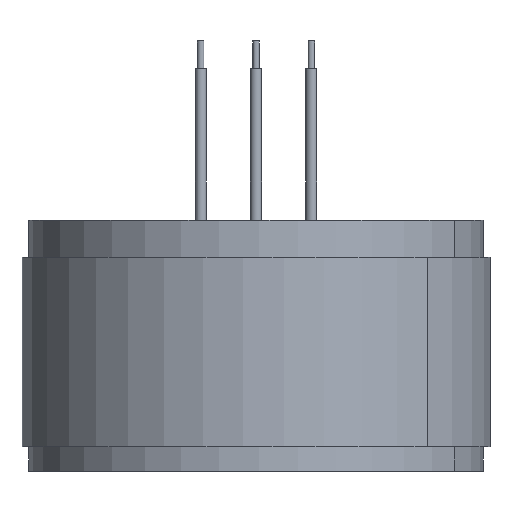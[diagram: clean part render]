
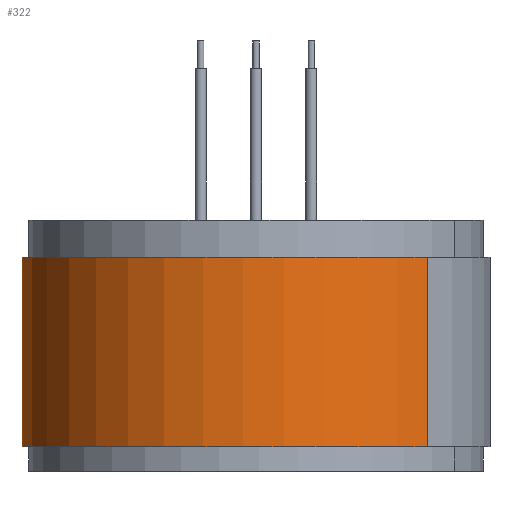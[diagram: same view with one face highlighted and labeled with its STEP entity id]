
A CAD part, front view. The second image highlights one B-rep face of the part: STEP entity #322.
In plain terms, the highlighted cylindrical face has radius 34 mm (diameter 68 mm), a partial arc.
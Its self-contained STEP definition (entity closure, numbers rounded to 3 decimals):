
#62 = CARTESIAN_POINT ( 'NONE',  ( -24.834, 23.223, 27.5 ) ) ;
#285 = VERTEX_POINT ( 'NONE', #6082 ) ;
#316 = DIRECTION ( 'NONE',  ( 0., 0., 1. ) ) ;
#322 = ADVANCED_FACE ( 'NONE', ( #4855 ), #4227, .T. ) ;
#338 = DIRECTION ( 'NONE',  ( 0., 0., 1. ) ) ;
#722 = AXIS2_PLACEMENT_3D ( 'NONE', #2157, #316, #2752 ) ;
#810 = CIRCLE ( 'NONE', #2977, 34. ) ;
#1366 = ORIENTED_EDGE ( 'NONE', *, *, #5826, .F. ) ;
#1674 = CARTESIAN_POINT ( 'NONE',  ( -24.834, 23.223, 0. ) ) ;
#2157 = CARTESIAN_POINT ( 'NONE',  ( 0., 0., 0. ) ) ;
#2243 = CARTESIAN_POINT ( 'NONE',  ( 24.834, -23.223, 27.5 ) ) ;
#2265 = EDGE_CURVE ( 'NONE', #3807, #285, #4164, .T. ) ;
#2362 = CARTESIAN_POINT ( 'NONE',  ( 0., 0., 27.5 ) ) ;
#2600 = VECTOR ( 'NONE', #3138, 1000. ) ;
#2752 = DIRECTION ( 'NONE',  ( 0.73, -0.683, 0. ) ) ;
#2977 = AXIS2_PLACEMENT_3D ( 'NONE', #3858, #338, #6277 ) ;
#3138 = DIRECTION ( 'NONE',  ( 0., 0., -1. ) ) ;
#3267 = ORIENTED_EDGE ( 'NONE', *, *, #5725, .T. ) ;
#3470 = VECTOR ( 'NONE', #5813, 1000. ) ;
#3482 = LINE ( 'NONE', #2243, #3470 ) ;
#3724 = VERTEX_POINT ( 'NONE', #6005 ) ;
#3745 = LINE ( 'NONE', #6163, #2600 ) ;
#3807 = VERTEX_POINT ( 'NONE', #1674 ) ;
#3858 = CARTESIAN_POINT ( 'NONE',  ( 0., 0., 27.5 ) ) ;
#3910 = VERTEX_POINT ( 'NONE', #62 ) ;
#4164 = CIRCLE ( 'NONE', #722, 34. ) ;
#4227 = CYLINDRICAL_SURFACE ( 'NONE', #5752, 34. ) ;
#4264 = DIRECTION ( 'NONE',  ( 0., 0., -1. ) ) ;
#4426 = EDGE_CURVE ( 'NONE', #3724, #285, #3482, .T. ) ;
#4583 = ORIENTED_EDGE ( 'NONE', *, *, #2265, .T. ) ;
#4855 = FACE_OUTER_BOUND ( 'NONE', #5465, .T. ) ;
#5465 = EDGE_LOOP ( 'NONE', ( #6972, #1366, #3267, #4583 ) ) ;
#5725 = EDGE_CURVE ( 'NONE', #3910, #3807, #3745, .T. ) ;
#5752 = AXIS2_PLACEMENT_3D ( 'NONE', #2362, #4264, #6662 ) ;
#5813 = DIRECTION ( 'NONE',  ( 0., 0., -1. ) ) ;
#5826 = EDGE_CURVE ( 'NONE', #3910, #3724, #810, .T. ) ;
#6005 = CARTESIAN_POINT ( 'NONE',  ( 24.834, -23.223, 27.5 ) ) ;
#6082 = CARTESIAN_POINT ( 'NONE',  ( 24.834, -23.223, 0. ) ) ;
#6163 = CARTESIAN_POINT ( 'NONE',  ( -24.834, 23.223, 27.5 ) ) ;
#6277 = DIRECTION ( 'NONE',  ( 0.73, -0.683, 0. ) ) ;
#6662 = DIRECTION ( 'NONE',  ( -0.73, 0.683, 0. ) ) ;
#6972 = ORIENTED_EDGE ( 'NONE', *, *, #4426, .F. ) ;
